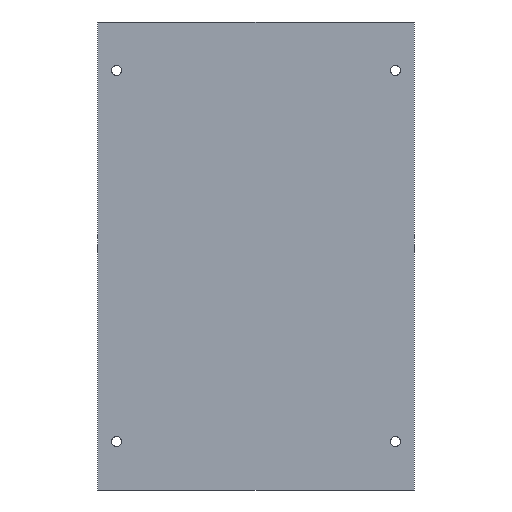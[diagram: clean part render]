
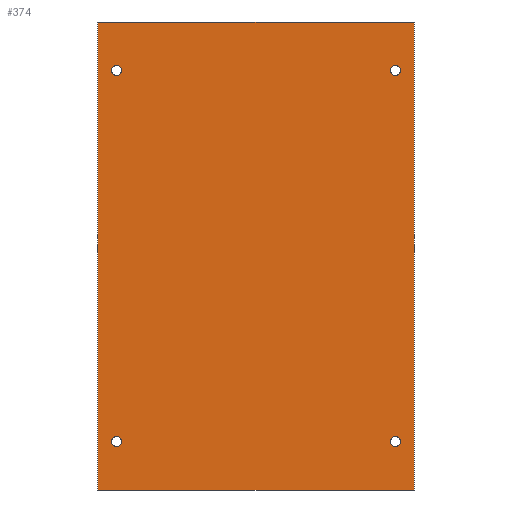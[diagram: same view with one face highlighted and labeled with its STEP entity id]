
A CAD part, front view. The second image highlights one B-rep face of the part: STEP entity #374.
In plain terms, the highlighted planar face has unit normal (0, -1, 0).
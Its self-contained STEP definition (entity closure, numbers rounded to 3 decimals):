
#33 = VECTOR ( 'NONE', #347, 1000. ) ;
#45 = EDGE_CURVE ( 'NONE', #295, #338, #414, .T. ) ;
#48 = VERTEX_POINT ( 'NONE', #522 ) ;
#49 = AXIS2_PLACEMENT_3D ( 'NONE', #296, #430, #56 ) ;
#51 = EDGE_CURVE ( 'NONE', #109, #170, #208, .T. ) ;
#56 = DIRECTION ( 'NONE',  ( 0., 0., 1. ) ) ;
#61 = VERTEX_POINT ( 'NONE', #391 ) ;
#63 = EDGE_CURVE ( 'NONE', #588, #504, #280, .T. ) ;
#64 = EDGE_CURVE ( 'NONE', #61, #125, #428, .T. ) ;
#70 = DIRECTION ( 'NONE',  ( 0., 1., 0. ) ) ;
#72 = FACE_OUTER_BOUND ( 'NONE', #432, .T. ) ;
#74 = VERTEX_POINT ( 'NONE', #342 ) ;
#79 = DIRECTION ( 'NONE',  ( 0., 1., 0. ) ) ;
#80 = CIRCLE ( 'NONE', #401, 4.25 ) ;
#82 = LINE ( 'NONE', #171, #33 ) ;
#83 = ORIENTED_EDGE ( 'NONE', *, *, #117, .T. ) ;
#107 = CIRCLE ( 'NONE', #257, 4.25 ) ;
#108 = CARTESIAN_POINT ( 'NONE',  ( -118., 0., -161.25 ) ) ;
#109 = VERTEX_POINT ( 'NONE', #381 ) ;
#112 = CIRCLE ( 'NONE', #248, 4.25 ) ;
#114 = ORIENTED_EDGE ( 'NONE', *, *, #463, .T. ) ;
#117 = EDGE_CURVE ( 'NONE', #48, #521, #300, .T. ) ;
#124 = CARTESIAN_POINT ( 'NONE',  ( 118., 0., -161.25 ) ) ;
#125 = VERTEX_POINT ( 'NONE', #108 ) ;
#126 = CARTESIAN_POINT ( 'NONE',  ( 118., 0., 157. ) ) ;
#144 = CIRCLE ( 'NONE', #191, 4.25 ) ;
#148 = FACE_BOUND ( 'NONE', #161, .T. ) ;
#158 = EDGE_CURVE ( 'NONE', #170, #295, #82, .T. ) ;
#160 = FACE_BOUND ( 'NONE', #326, .T. ) ;
#161 = EDGE_LOOP ( 'NONE', ( #348, #528 ) ) ;
#170 = VERTEX_POINT ( 'NONE', #539 ) ;
#171 = CARTESIAN_POINT ( 'NONE',  ( -134., 0., 198. ) ) ;
#175 = AXIS2_PLACEMENT_3D ( 'NONE', #126, #178, #455 ) ;
#178 = DIRECTION ( 'NONE',  ( 0., 1., 0. ) ) ;
#180 = ORIENTED_EDGE ( 'NONE', *, *, #291, .T. ) ;
#185 = CARTESIAN_POINT ( 'NONE',  ( 118., 0., -157. ) ) ;
#186 = CARTESIAN_POINT ( 'NONE',  ( 118., 0., -157. ) ) ;
#191 = AXIS2_PLACEMENT_3D ( 'NONE', #489, #501, #594 ) ;
#208 = LINE ( 'NONE', #251, #301 ) ;
#210 = DIRECTION ( 'NONE',  ( 0., 0., 1. ) ) ;
#215 = AXIS2_PLACEMENT_3D ( 'NONE', #583, #70, #393 ) ;
#219 = ORIENTED_EDGE ( 'NONE', *, *, #64, .T. ) ;
#220 = CARTESIAN_POINT ( 'NONE',  ( -134., 0., -198. ) ) ;
#225 = EDGE_CURVE ( 'NONE', #504, #588, #112, .T. ) ;
#228 = CIRCLE ( 'NONE', #175, 4.25 ) ;
#235 = CARTESIAN_POINT ( 'NONE',  ( 118., 0., 161.25 ) ) ;
#248 = AXIS2_PLACEMENT_3D ( 'NONE', #305, #400, #533 ) ;
#251 = CARTESIAN_POINT ( 'NONE',  ( -134., 0., 198. ) ) ;
#255 = DIRECTION ( 'NONE',  ( 0., 1., 0. ) ) ;
#257 = AXIS2_PLACEMENT_3D ( 'NONE', #185, #555, #605 ) ;
#260 = EDGE_CURVE ( 'NONE', #125, #61, #144, .T. ) ;
#277 = ORIENTED_EDGE ( 'NONE', *, *, #506, .T. ) ;
#280 = CIRCLE ( 'NONE', #486, 4.25 ) ;
#291 = EDGE_CURVE ( 'NONE', #521, #48, #228, .T. ) ;
#295 = VERTEX_POINT ( 'NONE', #349 ) ;
#296 = CARTESIAN_POINT ( 'NONE',  ( -118., 0., -157. ) ) ;
#298 = DIRECTION ( 'NONE',  ( 0., 0., -1. ) ) ;
#300 = CIRCLE ( 'NONE', #215, 4.25 ) ;
#301 = VECTOR ( 'NONE', #210, 1000. ) ;
#305 = CARTESIAN_POINT ( 'NONE',  ( -118., 0., 157. ) ) ;
#307 = DIRECTION ( 'NONE',  ( -1., 0., 0. ) ) ;
#313 = ORIENTED_EDGE ( 'NONE', *, *, #158, .F. ) ;
#321 = ORIENTED_EDGE ( 'NONE', *, *, #51, .F. ) ;
#326 = EDGE_LOOP ( 'NONE', ( #277, #114 ) ) ;
#336 = CARTESIAN_POINT ( 'NONE',  ( 134., 0., 198. ) ) ;
#338 = VERTEX_POINT ( 'NONE', #363 ) ;
#342 = CARTESIAN_POINT ( 'NONE',  ( 118., 0., -152.75 ) ) ;
#347 = DIRECTION ( 'NONE',  ( 1., 0., 0. ) ) ;
#348 = ORIENTED_EDGE ( 'NONE', *, *, #63, .T. ) ;
#349 = CARTESIAN_POINT ( 'NONE',  ( 134., 0., 198. ) ) ;
#361 = CARTESIAN_POINT ( 'NONE',  ( 0., 0., 0. ) ) ;
#363 = CARTESIAN_POINT ( 'NONE',  ( 134., 0., -198. ) ) ;
#374 = ADVANCED_FACE ( 'NONE', ( #148, #518, #160, #418, #72 ), #536, .T. ) ;
#381 = CARTESIAN_POINT ( 'NONE',  ( -134., 0., -198. ) ) ;
#384 = CARTESIAN_POINT ( 'NONE',  ( -118., 0., 157. ) ) ;
#391 = CARTESIAN_POINT ( 'NONE',  ( -118., 0., -152.75 ) ) ;
#393 = DIRECTION ( 'NONE',  ( 0., 0., 1. ) ) ;
#394 = EDGE_CURVE ( 'NONE', #338, #109, #578, .T. ) ;
#400 = DIRECTION ( 'NONE',  ( 0., 1., 0. ) ) ;
#401 = AXIS2_PLACEMENT_3D ( 'NONE', #186, #79, #416 ) ;
#414 = LINE ( 'NONE', #336, #527 ) ;
#416 = DIRECTION ( 'NONE',  ( 0., 0., 1. ) ) ;
#418 = FACE_BOUND ( 'NONE', #470, .T. ) ;
#428 = CIRCLE ( 'NONE', #49, 4.25 ) ;
#430 = DIRECTION ( 'NONE',  ( 0., 1., 0. ) ) ;
#431 = VECTOR ( 'NONE', #307, 1000. ) ;
#432 = EDGE_LOOP ( 'NONE', ( #440, #313, #321, #481 ) ) ;
#440 = ORIENTED_EDGE ( 'NONE', *, *, #45, .F. ) ;
#450 = EDGE_LOOP ( 'NONE', ( #180, #83 ) ) ;
#454 = DIRECTION ( 'NONE',  ( 0., -1., 0. ) ) ;
#455 = DIRECTION ( 'NONE',  ( 0., 0., 1. ) ) ;
#463 = EDGE_CURVE ( 'NONE', #601, #74, #107, .T. ) ;
#470 = EDGE_LOOP ( 'NONE', ( #219, #505 ) ) ;
#481 = ORIENTED_EDGE ( 'NONE', *, *, #394, .F. ) ;
#486 = AXIS2_PLACEMENT_3D ( 'NONE', #384, #255, #574 ) ;
#489 = CARTESIAN_POINT ( 'NONE',  ( -118., 0., -157. ) ) ;
#501 = DIRECTION ( 'NONE',  ( 0., 1., 0. ) ) ;
#504 = VERTEX_POINT ( 'NONE', #603 ) ;
#505 = ORIENTED_EDGE ( 'NONE', *, *, #260, .T. ) ;
#506 = EDGE_CURVE ( 'NONE', #74, #601, #80, .T. ) ;
#514 = AXIS2_PLACEMENT_3D ( 'NONE', #361, #454, #538 ) ;
#518 = FACE_BOUND ( 'NONE', #450, .T. ) ;
#521 = VERTEX_POINT ( 'NONE', #235 ) ;
#522 = CARTESIAN_POINT ( 'NONE',  ( 118., 0., 152.75 ) ) ;
#527 = VECTOR ( 'NONE', #298, 1000. ) ;
#528 = ORIENTED_EDGE ( 'NONE', *, *, #225, .T. ) ;
#533 = DIRECTION ( 'NONE',  ( 0., 0., 1. ) ) ;
#536 = PLANE ( 'NONE',  #514 ) ;
#538 = DIRECTION ( 'NONE',  ( 0., 0., -1. ) ) ;
#539 = CARTESIAN_POINT ( 'NONE',  ( -134., 0., 198. ) ) ;
#555 = DIRECTION ( 'NONE',  ( 0., 1., 0. ) ) ;
#574 = DIRECTION ( 'NONE',  ( 0., 0., 1. ) ) ;
#578 = LINE ( 'NONE', #220, #431 ) ;
#583 = CARTESIAN_POINT ( 'NONE',  ( 118., 0., 157. ) ) ;
#588 = VERTEX_POINT ( 'NONE', #600 ) ;
#594 = DIRECTION ( 'NONE',  ( 0., 0., 1. ) ) ;
#600 = CARTESIAN_POINT ( 'NONE',  ( -118., 0., 161.25 ) ) ;
#601 = VERTEX_POINT ( 'NONE', #124 ) ;
#603 = CARTESIAN_POINT ( 'NONE',  ( -118., 0., 152.75 ) ) ;
#605 = DIRECTION ( 'NONE',  ( 0., 0., 1. ) ) ;
